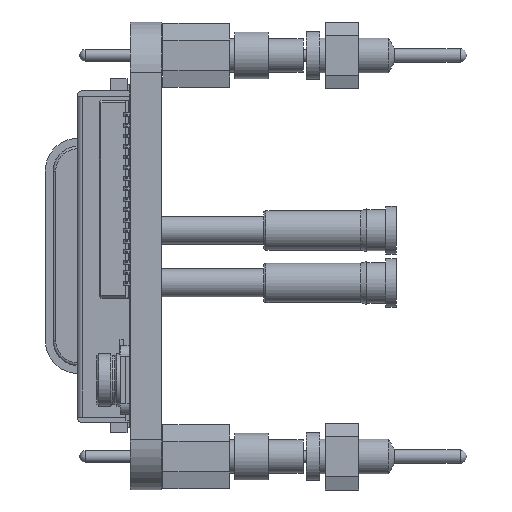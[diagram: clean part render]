
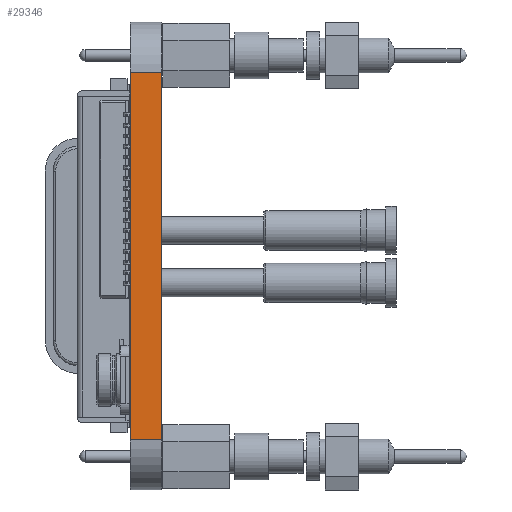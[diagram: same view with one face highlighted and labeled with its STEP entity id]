
A CAD part, left-side view. The second image highlights one B-rep face of the part: STEP entity #29346.
In plain terms, the highlighted planar face has unit normal (-1, 0, 0).
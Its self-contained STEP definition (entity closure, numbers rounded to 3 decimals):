
#3197=FACE_OUTER_BOUND('',#4804,.T.);
#4804=EDGE_LOOP('',(#24501,#24502,#24503,#24504));
#7532=LINE('',#47768,#10679);
#7680=LINE('',#48162,#10827);
#7681=LINE('',#48166,#10828);
#7682=LINE('',#48167,#10829);
#10679=VECTOR('',#38668,10.);
#10827=VECTOR('',#38998,1.);
#10828=VECTOR('',#39003,1.);
#10829=VECTOR('',#39004,1.);
#13515=VERTEX_POINT('',#47765);
#13516=VERTEX_POINT('',#47767);
#13671=VERTEX_POINT('',#48161);
#13672=VERTEX_POINT('',#48165);
#17237=EDGE_CURVE('',#13516,#13515,#7532,.T.);
#17434=EDGE_CURVE('',#13516,#13671,#7680,.T.);
#17436=EDGE_CURVE('',#13515,#13672,#7681,.T.);
#17437=EDGE_CURVE('',#13672,#13671,#7682,.T.);
#24501=ORIENTED_EDGE('',*,*,#17237,.T.);
#24502=ORIENTED_EDGE('',*,*,#17436,.T.);
#24503=ORIENTED_EDGE('',*,*,#17437,.T.);
#24504=ORIENTED_EDGE('',*,*,#17434,.F.);
#27652=PLANE('',#32116);
#29346=ADVANCED_FACE('',(#3197),#27652,.T.);
#32116=AXIS2_PLACEMENT_3D('',#48164,#39001,#39002);
#38668=DIRECTION('',(0.,0.,1.));
#38998=DIRECTION('',(0.,1.,0.));
#39001=DIRECTION('center_axis',(-1.,0.,0.));
#39002=DIRECTION('ref_axis',(0.,0.,
-1.));
#39003=DIRECTION('',(0.,1.,0.));
#39004=DIRECTION('',(0.,0.,-1.));
#47765=CARTESIAN_POINT('',(-9.302,1.672,22.576));
#47767=CARTESIAN_POINT('',(-9.302,1.672,8.606));
#47768=CARTESIAN_POINT('',(-9.302,1.672,19.084));
#48161=CARTESIAN_POINT('',(-9.302,2.872,8.606));
#48162=CARTESIAN_POINT('',(-9.302,1.272,8.606));
#48164=CARTESIAN_POINT('Origin',(-9.302,1.272,22.576));
#48165=CARTESIAN_POINT('',(-9.302,2.872,22.576));
#48166=CARTESIAN_POINT('',(-9.302,1.272,22.576));
#48167=CARTESIAN_POINT('',(-9.302,2.872,22.576));
